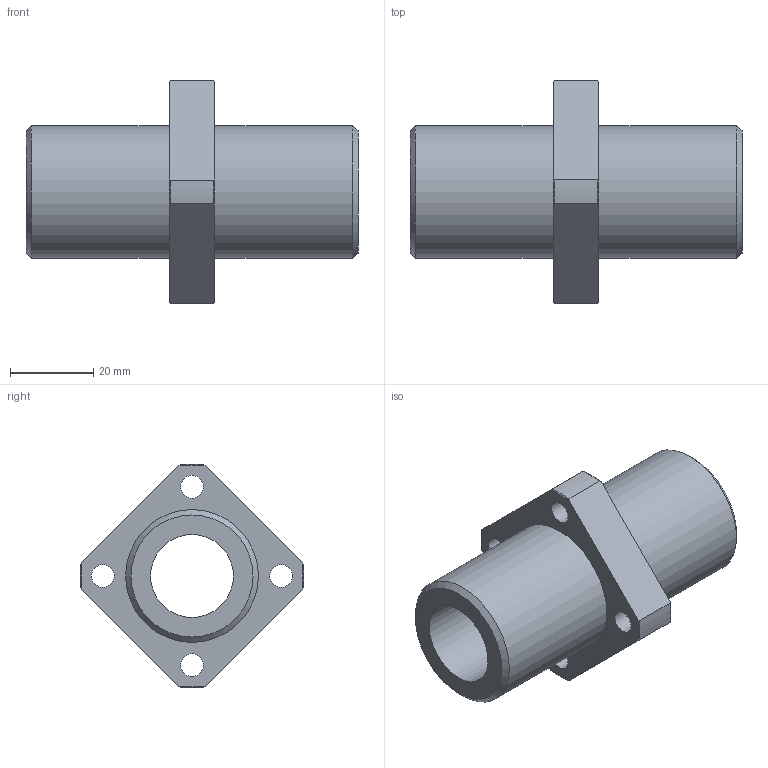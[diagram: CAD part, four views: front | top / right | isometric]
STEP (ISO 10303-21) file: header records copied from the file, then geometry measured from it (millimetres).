
FILE_DESCRIPTION(('STEP AP203'),'1');
FILE_NAME('//192.168.1.1/share/s-4 技術開発/s-4-4_CAD/s-4-4-3_見直し済み/PBC LINEAR修正済み/CFPJ/CFPJ_TOP/CFPJ/CFPJ20.step','2022-03-24T04:00:59',(' '),(' '),'Spatial InterOp 3D',' ',' ');
FILE_SCHEMA(('CONFIG_CONTROL_DESIGN'));
Length unit declared in the file: millimetre
Products named in the file (1): 1
Bounding box: 80 x 53.97 x 53.97 mm (x, y, z)
Volume: 47407.1 mm3; surface area: 17176.7 mm2
Topology: 1 solids, 1 shells, 37 faces, 92 edges, 63 vertices
Faces by surface type: cylinder 15, plane 12, cone 10
Full cylindrical faces by diameter (mm): 5.5 x4, 9 x4, 20 x1, 32 x2
Entity records: 1078 total; most frequent: CARTESIAN_POINT 214, DIRECTION 172, ORIENTED_EDGE 144, AXIS2_PLACEMENT_3D 78, EDGE_CURVE 72, EDGE_LOOP 66, VERTEX_POINT 56, FACE_OUTER_BOUND 48
